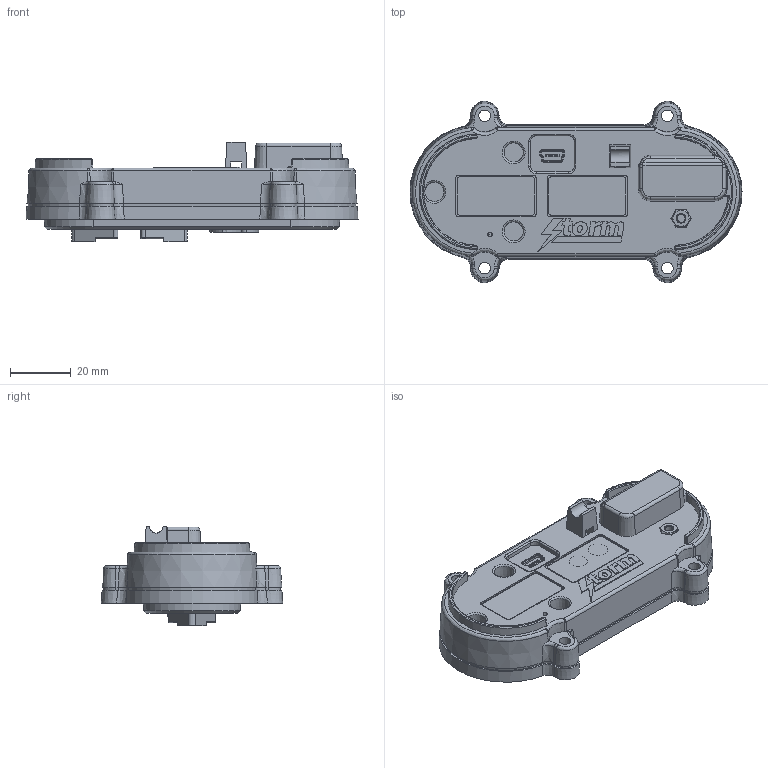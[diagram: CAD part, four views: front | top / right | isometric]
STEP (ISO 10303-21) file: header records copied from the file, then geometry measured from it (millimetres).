
FILE_DESCRIPTION (( 'STEP AP214' ), '1' );
FILE_NAME ('Audio-Com Module (hor).STEP', '2024-11-11T15:05:00', ( '' ), ( '' ), 'SwSTEP 2.0', 'SolidWorks 2024', '' );
FILE_SCHEMA (( 'AUTOMOTIVE_DESIGN' ));
Length unit declared in the file: millimetre
Products named in the file (1): Audio-Com Module (hor)
Bounding box: 109 x 59.49 x 32.7 mm (x, y, z)
Volume: 81370.7 mm3; surface area: 26128 mm2
Topology: 1 solids, 19 shells, 1056 faces, 2740 edges, 1766 vertices
Faces by surface type: plane 468, bspline 225, cone 194, cylinder 169
Full cylindrical faces by diameter (mm): 2.4 x2, 2.6 x1, 3.8 x4
Entity records: 40895 total; most frequent: CARTESIAN_POINT 17476, ORIENTED_EDGE 5386, DIRECTION 4027, EDGE_CURVE 2693, VERTEX_POINT 1761, AXIS2_PLACEMENT_3D 1371, LINE 1285, VECTOR 1285
